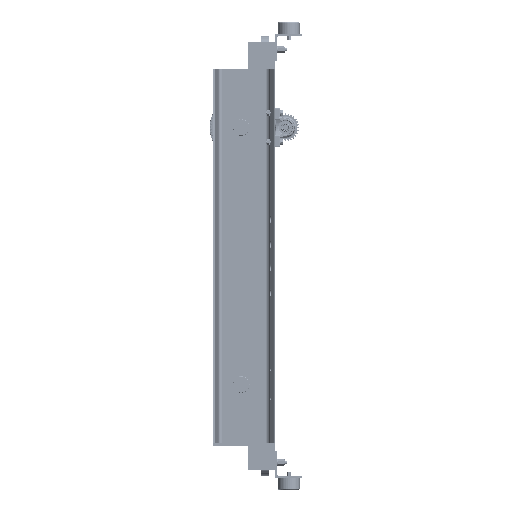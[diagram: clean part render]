
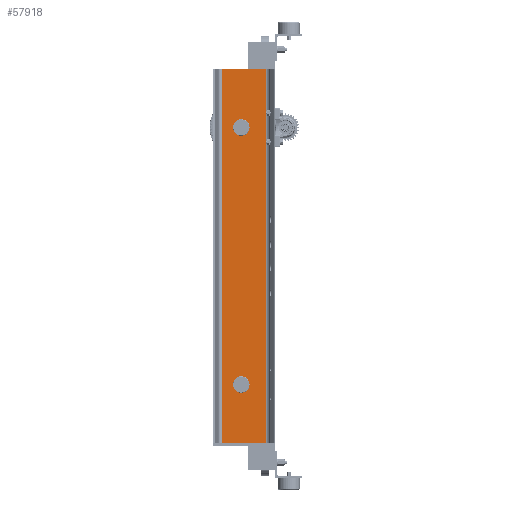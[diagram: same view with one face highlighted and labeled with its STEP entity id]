
A CAD part, left-side view. The second image highlights one B-rep face of the part: STEP entity #57918.
In plain terms, the highlighted planar face has unit normal (-1, 0, 0) as drawn and (1, 0, 0) by its records, which use the part's own axes.
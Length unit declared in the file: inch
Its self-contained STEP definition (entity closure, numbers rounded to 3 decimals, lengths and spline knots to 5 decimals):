
#1627 = DIRECTION ( 'NONE',  ( 0., 0., -1. ) ) ;
#2414 = VECTOR ( 'NONE', #104697, 39.37008 ) ;
#4756 = CARTESIAN_POINT ( 'NONE',  ( 0.375, 4.356, 16.5 ) ) ;
#5893 = DIRECTION ( 'NONE',  ( 1., 0., 0. ) ) ;
#9883 = EDGE_CURVE ( 'NONE', #74428, #157678, #93660, .T. ) ;
#13484 = CARTESIAN_POINT ( 'NONE',  ( 0.375, 6.76976, -24. ) ) ;
#14324 = AXIS2_PLACEMENT_3D ( 'NONE', #38868, #5893, #190992 ) ;
#21439 = CARTESIAN_POINT ( 'NONE',  ( 0.375, 6.76976, 24. ) ) ;
#22388 = VERTEX_POINT ( 'NONE', #111587 ) ;
#26266 = ORIENTED_EDGE ( 'NONE', *, *, #9883, .T. ) ;
#28286 = DIRECTION ( 'NONE',  ( 0., 1., 0. ) ) ;
#30489 = EDGE_CURVE ( 'NONE', #106383, #22388, #46126, .T. ) ;
#30814 = DIRECTION ( 'NONE',  ( 1., 0., 0. ) ) ;
#32670 = FACE_BOUND ( 'NONE', #61872, .T. ) ;
#34175 = ORIENTED_EDGE ( 'NONE', *, *, #144813, .F. ) ;
#38868 = CARTESIAN_POINT ( 'NONE',  ( 0.375, 4.356, 16.5 ) ) ;
#39348 = VECTOR ( 'NONE', #74512, 39.37008 ) ;
#40874 = AXIS2_PLACEMENT_3D ( 'NONE', #115020, #30814, #91780 ) ;
#46126 = CIRCLE ( 'NONE', #157944, 0.986 ) ;
#47639 = LINE ( 'NONE', #169649, #73719 ) ;
#48631 = DIRECTION ( 'NONE',  ( 0., 0., -1. ) ) ;
#52115 = AXIS2_PLACEMENT_3D ( 'NONE', #169696, #63619, #1627 ) ;
#57831 = CARTESIAN_POINT ( 'NONE',  ( 0.375, 5.342, 16.5 ) ) ;
#57918 = ADVANCED_FACE ( 'NONE', ( #108630, #32670, #138707 ), #166742, .T. ) ;
#61872 = EDGE_LOOP ( 'NONE', ( #112565, #79983 ) ) ;
#62282 = CIRCLE ( 'NONE', #14324, 0.986 ) ;
#63619 = DIRECTION ( 'NONE',  ( 1., 0., 0. ) ) ;
#63746 = DIRECTION ( 'NONE',  ( 1., 0., 0. ) ) ;
#64918 = VERTEX_POINT ( 'NONE', #171999 ) ;
#69130 = EDGE_CURVE ( 'NONE', #22388, #106383, #175124, .T. ) ;
#71512 = CARTESIAN_POINT ( 'NONE',  ( 0.375, 6.76976, -24. ) ) ;
#72441 = CARTESIAN_POINT ( 'NONE',  ( 0.375, 5.342, -16.5 ) ) ;
#73719 = VECTOR ( 'NONE', #48631, 39.37008 ) ;
#74428 = VERTEX_POINT ( 'NONE', #21439 ) ;
#74512 = DIRECTION ( 'NONE',  ( 0., -1., 0. ) ) ;
#74735 = CARTESIAN_POINT ( 'NONE',  ( 0.375, 1.23024, 24. ) ) ;
#75739 = DIRECTION ( 'NONE',  ( 0., -1., 0. ) ) ;
#79983 = ORIENTED_EDGE ( 'NONE', *, *, #104738, .F. ) ;
#86664 = CIRCLE ( 'NONE', #112241, 0.986 ) ;
#90023 = EDGE_LOOP ( 'NONE', ( #34175, #122554, #26266, #115016 ) ) ;
#91780 = DIRECTION ( 'NONE',  ( 0., 1., 0. ) ) ;
#93660 = LINE ( 'NONE', #169705, #156258 ) ;
#102473 = EDGE_CURVE ( 'NONE', #157678, #145724, #47639, .T. ) ;
#104266 = CARTESIAN_POINT ( 'NONE',  ( 0.375, 4.356, -16.5 ) ) ;
#104697 = DIRECTION ( 'NONE',  ( 0., 0., -1. ) ) ;
#104738 = EDGE_CURVE ( 'NONE', #64918, #132990, #86664, .T. ) ;
#105249 = DIRECTION ( 'NONE',  ( 1., 0., 0. ) ) ;
#106383 = VERTEX_POINT ( 'NONE', #72441 ) ;
#108630 = FACE_BOUND ( 'NONE', #111730, .T. ) ;
#110738 = DIRECTION ( 'NONE',  ( 0., 1., 0. ) ) ;
#111587 = CARTESIAN_POINT ( 'NONE',  ( 0.375, 3.37, -16.5 ) ) ;
#111730 = EDGE_LOOP ( 'NONE', ( #147511, #143821 ) ) ;
#112241 = AXIS2_PLACEMENT_3D ( 'NONE', #4756, #63746, #110738 ) ;
#112565 = ORIENTED_EDGE ( 'NONE', *, *, #125541, .F. ) ;
#115016 = ORIENTED_EDGE ( 'NONE', *, *, #102473, .T. ) ;
#115020 = CARTESIAN_POINT ( 'NONE',  ( 0.375, 4.356, -16.5 ) ) ;
#118521 = LINE ( 'NONE', #13484, #39348 ) ;
#122554 = ORIENTED_EDGE ( 'NONE', *, *, #150220, .F. ) ;
#125541 = EDGE_CURVE ( 'NONE', #132990, #64918, #62282, .T. ) ;
#132990 = VERTEX_POINT ( 'NONE', #57831 ) ;
#138707 = FACE_OUTER_BOUND ( 'NONE', #90023, .T. ) ;
#143821 = ORIENTED_EDGE ( 'NONE', *, *, #69130, .F. ) ;
#144734 = VERTEX_POINT ( 'NONE', #71512 ) ;
#144813 = EDGE_CURVE ( 'NONE', #144734, #145724, #118521, .T. ) ;
#145724 = VERTEX_POINT ( 'NONE', #171322 ) ;
#147511 = ORIENTED_EDGE ( 'NONE', *, *, #30489, .F. ) ;
#150220 = EDGE_CURVE ( 'NONE', #74428, #144734, #164792, .T. ) ;
#151756 = CARTESIAN_POINT ( 'NONE',  ( 0.375, 6.76976, 24. ) ) ;
#156258 = VECTOR ( 'NONE', #75739, 39.37008 ) ;
#157678 = VERTEX_POINT ( 'NONE', #74735 ) ;
#157944 = AXIS2_PLACEMENT_3D ( 'NONE', #104266, #105249, #28286 ) ;
#164792 = LINE ( 'NONE', #151756, #2414 ) ;
#166742 = PLANE ( 'NONE',  #52115 ) ;
#169649 = CARTESIAN_POINT ( 'NONE',  ( 0.375, 1.23024, 24. ) ) ;
#169696 = CARTESIAN_POINT ( 'NONE',  ( 0.375, 6.76976, 24. ) ) ;
#169705 = CARTESIAN_POINT ( 'NONE',  ( 0.375, 6.76976, 24. ) ) ;
#171322 = CARTESIAN_POINT ( 'NONE',  ( 0.375, 1.23024, -24. ) ) ;
#171999 = CARTESIAN_POINT ( 'NONE',  ( 0.375, 3.37, 16.5 ) ) ;
#175124 = CIRCLE ( 'NONE', #40874, 0.986 ) ;
#190992 = DIRECTION ( 'NONE',  ( 0., 1., 0. ) ) ;
